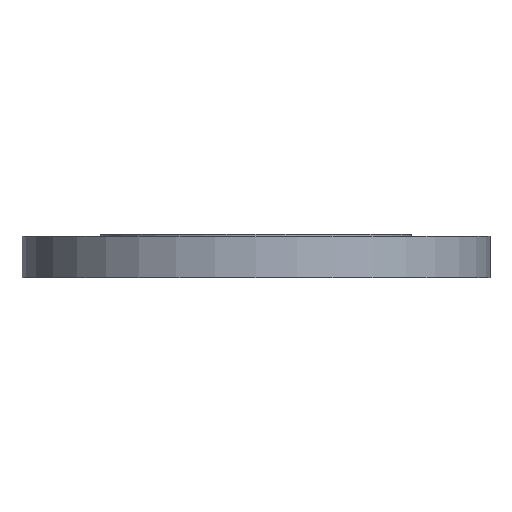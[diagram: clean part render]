
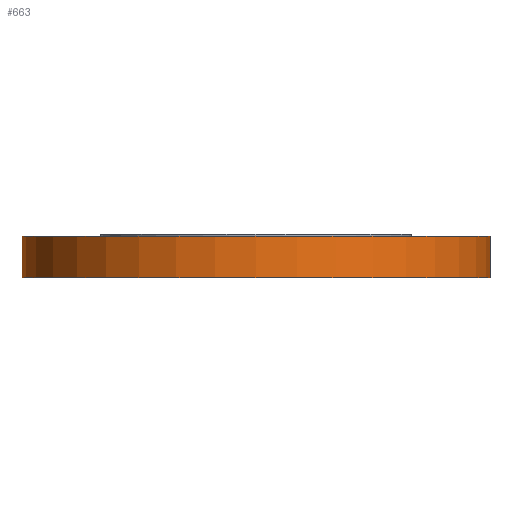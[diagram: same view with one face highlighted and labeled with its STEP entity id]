
A CAD part, front view. The second image highlights one B-rep face of the part: STEP entity #663.
In plain terms, the highlighted cylindrical face has radius 257.5 mm (diameter 515 mm), a partial arc.
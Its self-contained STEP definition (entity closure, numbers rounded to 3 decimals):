
#3 = CARTESIAN_POINT ( 'NONE',  ( -257.5, 0., -48. ) ) ;
#83 = EDGE_LOOP ( 'NONE', ( #475, #476, #477, #480 ) ) ;
#87 = VERTEX_POINT ( 'NONE', #3 ) ;
#100 = VERTEX_POINT ( 'NONE', #1577 ) ;
#241 = CARTESIAN_POINT ( 'NONE',  ( 257.5, 0., -48. ) ) ;
#253 = EDGE_CURVE ( 'NONE', #285, #749, #1431, .T. ) ;
#285 = VERTEX_POINT ( 'NONE', #241 ) ;
#475 = ORIENTED_EDGE ( 'NONE', *, *, #1254, .F. ) ;
#476 = ORIENTED_EDGE ( 'NONE', *, *, #1257, .F. ) ;
#477 = ORIENTED_EDGE ( 'NONE', *, *, #253, .T. ) ;
#480 = ORIENTED_EDGE ( 'NONE', *, *, #585, .T. ) ;
#585 = EDGE_CURVE ( 'NONE', #749, #100, #1405, .T. ) ;
#634 = AXIS2_PLACEMENT_3D ( 'NONE', #690, #689, #685 ) ;
#636 = CIRCLE ( 'NONE', #634, 257.5 ) ;
#640 = VECTOR ( 'NONE', #691, 1000. ) ;
#663 = ADVANCED_FACE ( 'NONE', ( #1091 ), #1089, .T. ) ;
#685 = DIRECTION ( 'NONE',  ( -1., 0., 0. ) ) ;
#689 = DIRECTION ( 'NONE',  ( 0., 0., -1. ) ) ;
#690 = CARTESIAN_POINT ( 'NONE',  ( 0., 0., -48. ) ) ;
#691 = DIRECTION ( 'NONE',  ( 0., 0., 1. ) ) ;
#692 = CARTESIAN_POINT ( 'NONE',  ( -257.5, 0., -125. ) ) ;
#694 = LINE ( 'NONE', #692, #640 ) ;
#749 = VERTEX_POINT ( 'NONE', #1002 ) ;
#1002 = CARTESIAN_POINT ( 'NONE',  ( 257.5, 0., -2.5 ) ) ;
#1084 = DIRECTION ( 'NONE',  ( 1., 0., 0. ) ) ;
#1087 = DIRECTION ( 'NONE',  ( 0., 0., 1. ) ) ;
#1088 = CARTESIAN_POINT ( 'NONE',  ( 0., 0., -125. ) ) ;
#1089 = CYLINDRICAL_SURFACE ( 'NONE', #1235, 257.5 ) ;
#1091 = FACE_OUTER_BOUND ( 'NONE', #83, .T. ) ;
#1174 = DIRECTION ( 'NONE',  ( -1., 0., 0. ) ) ;
#1178 = DIRECTION ( 'NONE',  ( 0., 0., -1. ) ) ;
#1183 = CARTESIAN_POINT ( 'NONE',  ( 0., 0., -2.5 ) ) ;
#1235 = AXIS2_PLACEMENT_3D ( 'NONE', #1088, #1087, #1084 ) ;
#1254 = EDGE_CURVE ( 'NONE', #87, #100, #694, .T. ) ;
#1257 = EDGE_CURVE ( 'NONE', #285, #87, #636, .T. ) ;
#1384 = AXIS2_PLACEMENT_3D ( 'NONE', #1183, #1178, #1174 ) ;
#1405 = CIRCLE ( 'NONE', #1384, 257.5 ) ;
#1428 = DIRECTION ( 'NONE',  ( 0., 0., 1. ) ) ;
#1430 = CARTESIAN_POINT ( 'NONE',  ( 257.5, 0., -125. ) ) ;
#1431 = LINE ( 'NONE', #1430, #1566 ) ;
#1566 = VECTOR ( 'NONE', #1428, 1000. ) ;
#1577 = CARTESIAN_POINT ( 'NONE',  ( -257.5, 0., -2.5 ) ) ;
